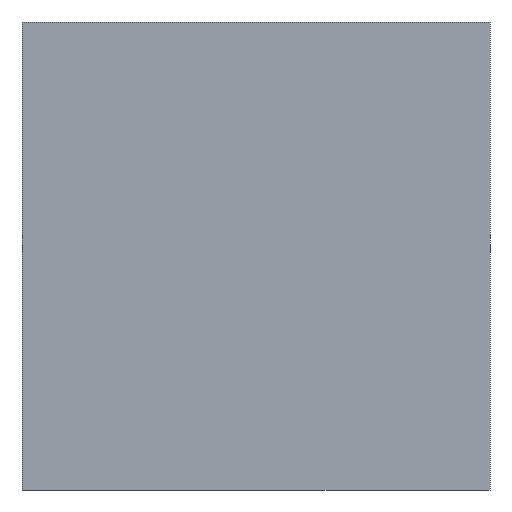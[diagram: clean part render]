
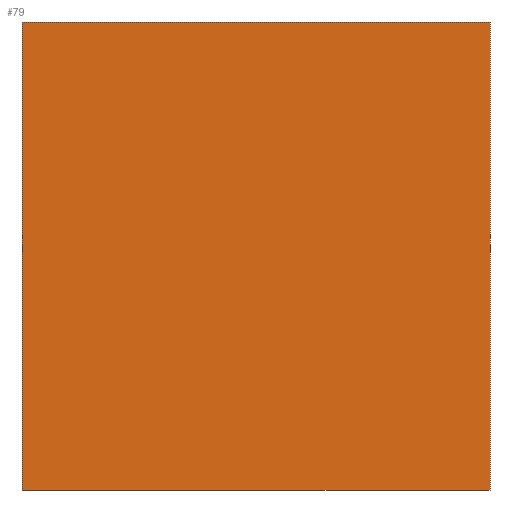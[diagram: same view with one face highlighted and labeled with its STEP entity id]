
A CAD part, left-side view. The second image highlights one B-rep face of the part: STEP entity #79.
In plain terms, the highlighted planar face has unit normal (-1, 0, 0).
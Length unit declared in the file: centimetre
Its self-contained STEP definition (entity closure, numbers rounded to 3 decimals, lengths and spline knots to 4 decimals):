
#9 = CARTESIAN_POINT ( 'NONE',  ( 0., 1000., 1000. ) ) ;
#20 = ORIENTED_EDGE ( 'NONE', *, *, #291, .F. ) ;
#26 = VECTOR ( 'NONE', #339, 100. ) ;
#30 = DIRECTION ( 'NONE',  ( 1., 0., 0. ) ) ;
#32 = FACE_OUTER_BOUND ( 'NONE', #363, .T. ) ;
#37 = ORIENTED_EDGE ( 'NONE', *, *, #92, .F. ) ;
#43 = LINE ( 'NONE', #9, #53 ) ;
#53 = VECTOR ( 'NONE', #136, 100. ) ;
#54 = CARTESIAN_POINT ( 'NONE',  ( 0., 0., 1000. ) ) ;
#61 = VERTEX_POINT ( 'NONE', #188 ) ;
#79 = ADVANCED_FACE ( 'NONE', ( #32 ), #160, .F. ) ;
#84 = EDGE_CURVE ( 'NONE', #61, #305, #330, .T. ) ;
#87 = DIRECTION ( 'NONE',  ( 0., -1., 0. ) ) ;
#88 = DIRECTION ( 'NONE',  ( 0., 0., -1. ) ) ;
#92 = EDGE_CURVE ( 'NONE', #393, #96, #125, .T. ) ;
#96 = VERTEX_POINT ( 'NONE', #242 ) ;
#114 = CARTESIAN_POINT ( 'NONE',  ( 0., 1000., 1000. ) ) ;
#118 = VECTOR ( 'NONE', #88, 100. ) ;
#125 = LINE ( 'NONE', #254, #118 ) ;
#136 = DIRECTION ( 'NONE',  ( 0., -1., 0. ) ) ;
#153 = AXIS2_PLACEMENT_3D ( 'NONE', #359, #30, #219 ) ;
#155 = ORIENTED_EDGE ( 'NONE', *, *, #324, .T. ) ;
#160 = PLANE ( 'NONE',  #153 ) ;
#166 = ORIENTED_EDGE ( 'NONE', *, *, #84, .T. ) ;
#188 = CARTESIAN_POINT ( 'NONE',  ( 0., 1000., 1000. ) ) ;
#219 = DIRECTION ( 'NONE',  ( 0., 0., -1. ) ) ;
#242 = CARTESIAN_POINT ( 'NONE',  ( 0., 0., 0. ) ) ;
#254 = CARTESIAN_POINT ( 'NONE',  ( 0., 0., 1000. ) ) ;
#270 = LINE ( 'NONE', #328, #383 ) ;
#291 = EDGE_CURVE ( 'NONE', #61, #393, #43, .T. ) ;
#300 = CARTESIAN_POINT ( 'NONE',  ( 0., 1000., 0. ) ) ;
#305 = VERTEX_POINT ( 'NONE', #300 ) ;
#324 = EDGE_CURVE ( 'NONE', #305, #96, #270, .T. ) ;
#328 = CARTESIAN_POINT ( 'NONE',  ( 0., 1000., 0. ) ) ;
#330 = LINE ( 'NONE', #114, #26 ) ;
#339 = DIRECTION ( 'NONE',  ( 0., 0., -1. ) ) ;
#359 = CARTESIAN_POINT ( 'NONE',  ( 0., 1000., 1000. ) ) ;
#363 = EDGE_LOOP ( 'NONE', ( #155, #37, #20, #166 ) ) ;
#383 = VECTOR ( 'NONE', #87, 100. ) ;
#393 = VERTEX_POINT ( 'NONE', #54 ) ;
